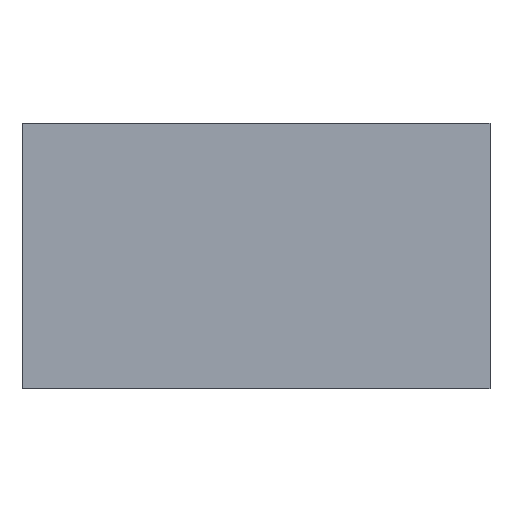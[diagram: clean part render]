
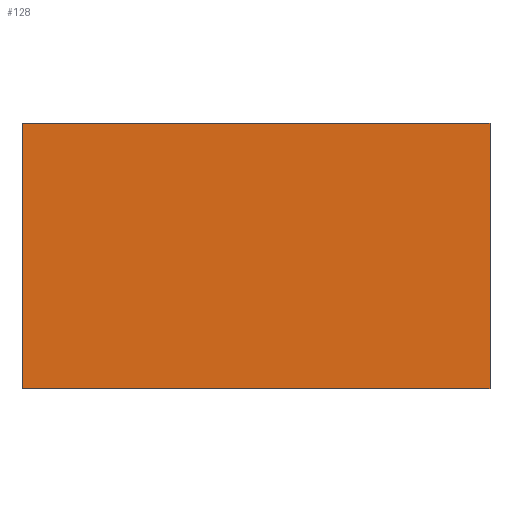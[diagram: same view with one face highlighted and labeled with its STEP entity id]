
A CAD part, front view. The second image highlights one B-rep face of the part: STEP entity #128.
In plain terms, the highlighted planar face has unit normal (0, -1, 0).
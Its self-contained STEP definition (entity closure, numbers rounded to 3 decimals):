
#34 = ORIENTED_EDGE ( 'NONE', *, *, #1715, .T. ) ;
#128 = ADVANCED_FACE ( 'NONE', ( #3376 ), #3377, .F. ) ;
#684 = VERTEX_POINT ( 'NONE', #1627 ) ;
#1567 = VERTEX_POINT ( 'NONE', #2916 ) ;
#1627 = CARTESIAN_POINT ( 'NONE',  ( 44., 0., 50. ) ) ;
#1635 = LINE ( 'NONE', #1636, #1637 ) ;
#1636 = CARTESIAN_POINT ( 'NONE',  ( 44., 0., 50. ) ) ;
#1637 = VECTOR ( 'NONE', #1638, 1000. ) ;
#1638 = DIRECTION ( 'NONE',  ( 0., 0., -1. ) ) ;
#1715 = EDGE_CURVE ( 'NONE', #1567, #2472, #2970, .T. ) ;
#1864 = ORIENTED_EDGE ( 'NONE', *, *, #2435, .T. ) ;
#1871 = EDGE_CURVE ( 'NONE', #1567, #684, #3100, .T. ) ;
#1918 = ORIENTED_EDGE ( 'NONE', *, *, #1871, .F. ) ;
#2166 = EDGE_LOOP ( 'NONE', ( #1864, #2409, #1918, #34 ) ) ;
#2378 = EDGE_CURVE ( 'NONE', #684, #2429, #1635, .T. ) ;
#2409 = ORIENTED_EDGE ( 'NONE', *, *, #2378, .F. ) ;
#2429 = VERTEX_POINT ( 'NONE', #2828 ) ;
#2435 = EDGE_CURVE ( 'NONE', #2472, #2429, #2922, .T. ) ;
#2472 = VERTEX_POINT ( 'NONE', #3165 ) ;
#2828 = CARTESIAN_POINT ( 'NONE',  ( 44., 0., 0. ) ) ;
#2916 = CARTESIAN_POINT ( 'NONE',  ( -44., 0., 50. ) ) ;
#2922 = LINE ( 'NONE', #2923, #2924 ) ;
#2923 = CARTESIAN_POINT ( 'NONE',  ( 44., 0., 0. ) ) ;
#2924 = VECTOR ( 'NONE', #2925, 1000. ) ;
#2925 = DIRECTION ( 'NONE',  ( 1., 0., 0. ) ) ;
#2970 = LINE ( 'NONE', #2971, #2972 ) ;
#2971 = CARTESIAN_POINT ( 'NONE',  ( -44., 0., 50. ) ) ;
#2972 = VECTOR ( 'NONE', #2973, 1000. ) ;
#2973 = DIRECTION ( 'NONE',  ( 0., 0., -1. ) ) ;
#3100 = LINE ( 'NONE', #3101, #3102 ) ;
#3101 = CARTESIAN_POINT ( 'NONE',  ( 44., 0., 50. ) ) ;
#3102 = VECTOR ( 'NONE', #3103, 1000. ) ;
#3103 = DIRECTION ( 'NONE',  ( 1., 0., 0. ) ) ;
#3165 = CARTESIAN_POINT ( 'NONE',  ( -44., 0., 0. ) ) ;
#3376 = FACE_OUTER_BOUND ( 'NONE', #2166, .T. ) ;
#3377 = PLANE ( 'NONE',  #3378 ) ;
#3378 = AXIS2_PLACEMENT_3D ( 'NONE', #3379, #3380, #3381 ) ;
#3379 = CARTESIAN_POINT ( 'NONE',  ( 44., 0., 50. ) ) ;
#3380 = DIRECTION ( 'NONE',  ( 0., 1., 0. ) ) ;
#3381 = DIRECTION ( 'NONE',  ( 0., 0., 1. ) ) ;
